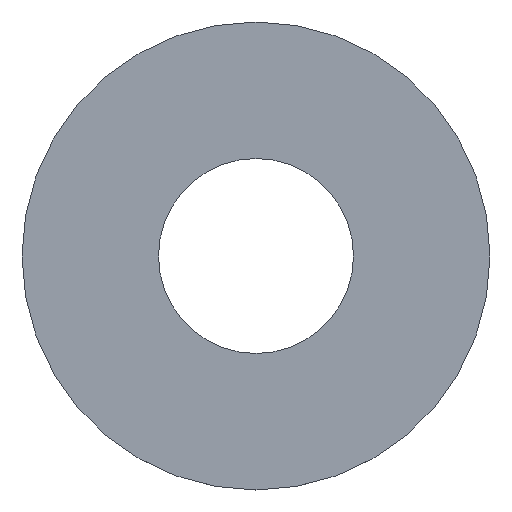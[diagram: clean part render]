
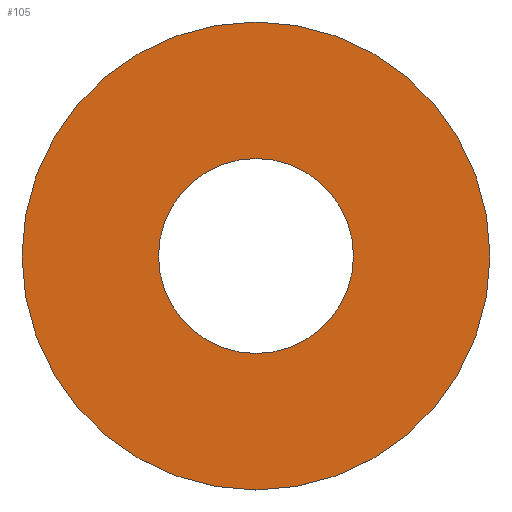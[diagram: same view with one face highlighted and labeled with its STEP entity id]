
A CAD part, top view. The second image highlights one B-rep face of the part: STEP entity #105.
In plain terms, the highlighted planar face has unit normal (0, 0, 1).
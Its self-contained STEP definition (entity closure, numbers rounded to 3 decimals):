
#21 = EDGE_CURVE('',#22,#22,#24,.T.);
#22 = VERTEX_POINT('',#23);
#23 = CARTESIAN_POINT('',(12.,0.,-45.9));
#24 = SURFACE_CURVE('',#25,(#30,#42),.PCURVE_S1.);
#25 = CIRCLE('',#26,12.);
#26 = AXIS2_PLACEMENT_3D('',#27,#28,#29);
#27 = CARTESIAN_POINT('',(0.,0.,-45.9));
#28 = DIRECTION('',(0.,0.,1.));
#29 = DIRECTION('',(1.,0.,-0.));
#30 = PCURVE('',#31,#36);
#31 = CYLINDRICAL_SURFACE('',#32,12.);
#32 = AXIS2_PLACEMENT_3D('',#33,#34,#35);
#33 = CARTESIAN_POINT('',(0.,0.,-46.2));
#34 = DIRECTION('',(0.,0.,1.));
#35 = DIRECTION('',(1.,0.,-0.));
#36 = DEFINITIONAL_REPRESENTATION('',(#37),#41);
#37 = LINE('',#38,#39);
#38 = CARTESIAN_POINT('',(0.,0.3));
#39 = VECTOR('',#40,1.);
#40 = DIRECTION('',(1.,0.));
#41 = ( GEOMETRIC_REPRESENTATION_CONTEXT(2) 
PARAMETRIC_REPRESENTATION_CONTEXT() REPRESENTATION_CONTEXT('2D SPACE',''
  ) );
#42 = PCURVE('',#43,#48);
#43 = PLANE('',#44);
#44 = AXIS2_PLACEMENT_3D('',#45,#46,#47);
#45 = CARTESIAN_POINT('',(0.,0.,-45.9));
#46 = DIRECTION('',(0.,0.,1.));
#47 = DIRECTION('',(1.,0.,-0.));
#48 = DEFINITIONAL_REPRESENTATION('',(#49),#53);
#49 = CIRCLE('',#50,12.);
#50 = AXIS2_PLACEMENT_2D('',#51,#52);
#51 = CARTESIAN_POINT('',(0.,0.));
#52 = DIRECTION('',(1.,0.));
#53 = ( GEOMETRIC_REPRESENTATION_CONTEXT(2) 
PARAMETRIC_REPRESENTATION_CONTEXT() REPRESENTATION_CONTEXT('2D SPACE',''
  ) );
#105 = ADVANCED_FACE('',(#106,#109),#43,.T.);
#106 = FACE_BOUND('',#107,.T.);
#107 = EDGE_LOOP('',(#108));
#108 = ORIENTED_EDGE('',*,*,#21,.T.);
#109 = FACE_BOUND('',#110,.T.);
#110 = EDGE_LOOP('',(#111));
#111 = ORIENTED_EDGE('',*,*,#112,.F.);
#112 = EDGE_CURVE('',#113,#113,#115,.T.);
#113 = VERTEX_POINT('',#114);
#114 = CARTESIAN_POINT('',(5.,0.,-45.9));
#115 = SURFACE_CURVE('',#116,(#121,#128),.PCURVE_S1.);
#116 = CIRCLE('',#117,5.);
#117 = AXIS2_PLACEMENT_3D('',#118,#119,#120);
#118 = CARTESIAN_POINT('',(0.,0.,-45.9));
#119 = DIRECTION('',(0.,0.,1.));
#120 = DIRECTION('',(1.,0.,-0.));
#121 = PCURVE('',#43,#122);
#122 = DEFINITIONAL_REPRESENTATION('',(#123),#127);
#123 = CIRCLE('',#124,5.);
#124 = AXIS2_PLACEMENT_2D('',#125,#126);
#125 = CARTESIAN_POINT('',(0.,0.));
#126 = DIRECTION('',(1.,0.));
#127 = ( GEOMETRIC_REPRESENTATION_CONTEXT(2) 
PARAMETRIC_REPRESENTATION_CONTEXT() REPRESENTATION_CONTEXT('2D SPACE',''
  ) );
#128 = PCURVE('',#129,#134);
#129 = CYLINDRICAL_SURFACE('',#130,5.);
#130 = AXIS2_PLACEMENT_3D('',#131,#132,#133);
#131 = CARTESIAN_POINT('',(0.,0.,-46.4));
#132 = DIRECTION('',(0.,0.,1.));
#133 = DIRECTION('',(1.,0.,-0.));
#134 = DEFINITIONAL_REPRESENTATION('',(#135),#139);
#135 = LINE('',#136,#137);
#136 = CARTESIAN_POINT('',(0.,0.5));
#137 = VECTOR('',#138,1.);
#138 = DIRECTION('',(1.,0.));
#139 = ( GEOMETRIC_REPRESENTATION_CONTEXT(2) 
PARAMETRIC_REPRESENTATION_CONTEXT() REPRESENTATION_CONTEXT('2D SPACE',''
  ) );
